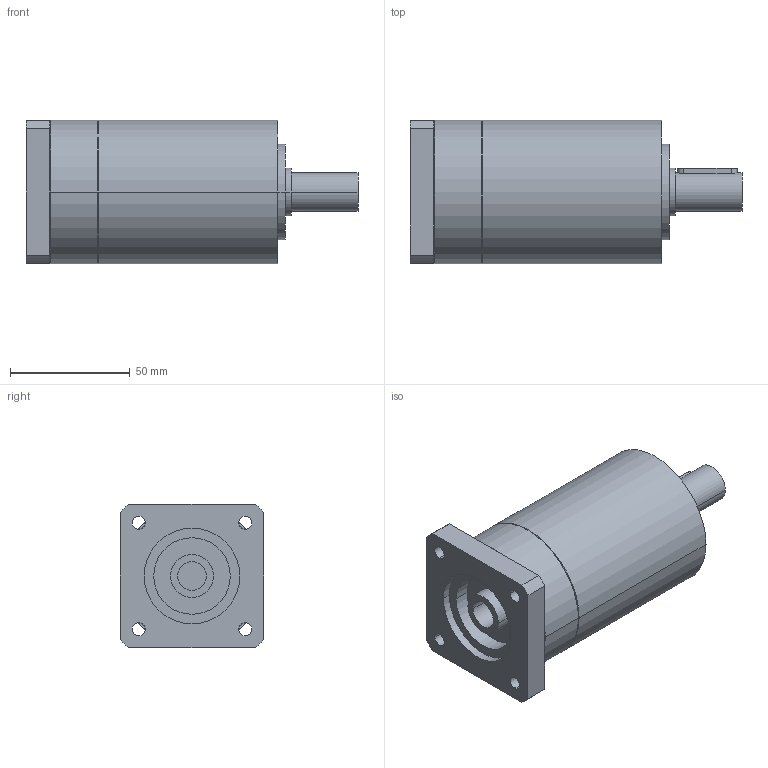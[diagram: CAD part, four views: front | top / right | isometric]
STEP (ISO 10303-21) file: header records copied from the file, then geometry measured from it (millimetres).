
FILE_DESCRIPTION(('CoCreate Modeling STEP Export'),'2;1');
FILE_NAME('GPR75_ig-9-12-16-20-24-30-36_16_B14_12_P03.stp','2014-08-25T16:02:31',(''),(''),'CoCreate Modeling STEP processor for AP214 (Solid Model)','CoCreate Modeling 16.00C 25-Feb-2009 (C) Parametric Technology GmbH','');
FILE_SCHEMA(('AUTOMOTIVE_DESIGN { 1 0 10303 214 1 1 1 1 }'));
Length unit declared in the file: millimetre
Products named in the file (2): GPR75_ig-9-12-16-20-24-30-36_16_B14_12_P03
Assembly tree (1 placements, depth 2):
  GPR75_ig-9-12-16-20-24-30-36_16_B14_12_P03
    GPR75_ig-9-12-16-20-24-30-36_16_B14_12_P03
Bounding box: 138.9 x 60 x 60 mm (x, y, z)
Volume: 301925.7 mm3; surface area: 33882.7 mm2
Topology: 1 solids, 1 shells, 86 faces, 233 edges, 161 vertices
Faces by surface type: cylinder 50, plane 30, cone 6
Entity records: 2322 total; most frequent: ORIENTED_EDGE 462, CARTESIAN_POINT 419, DIRECTION 314, EDGE_CURVE 231, VERTEX_POINT 161, AXIS2_PLACEMENT_3D 120, EDGE_LOOP 108, FACE_OUTER_BOUND 86
